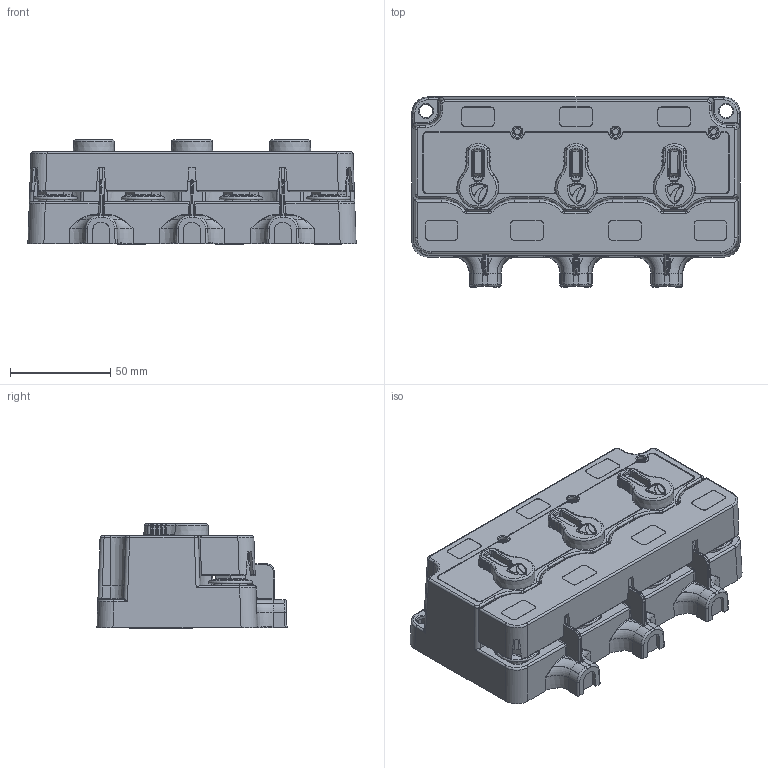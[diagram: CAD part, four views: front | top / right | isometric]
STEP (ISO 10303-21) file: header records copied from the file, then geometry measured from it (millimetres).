
FILE_DESCRIPTION(/* description */ ('STEP AP242','CAx-IF Rec.Pracs.---Representation and Presentation of Product Manufacturing Information (PMI)---4.0---2014-10-13','CAx-IF Rec.Pracs.---3D Tessellated Geometry---0.4---2014-09-14','2;1'),/* implementation_level */ '2;1');
FILE_NAME(/* name */ '61973323760b5b716f8d54d7',/* time_stamp */ '2021-11-19T05:16:25+00:00',/* author */ (''),/* organization */ (''),/* preprocessor_version */ 'ST-DEVELOPER v18.1',/* originating_system */ ' ',/* authorisation */ ' ');
FILE_SCHEMA (('AP242_MANAGED_MODEL_BASED_3D_ENGINEERING_MIM_LF { 1 0 10303 442 1 1 4 }'));
Products named in the file (6): 3X XD Base - Knob-Knob-Knob; M10 Flange Nut; 3X Term Cvr
Bounding box: 164 x 94.99 x 52.05 mm (x, y, z)
Volume: 552209.9 mm3; surface area: 95238.9 mm2
Topology: 6 solids, 20 shells, 3584 faces, 9505 edges, 5980 vertices
Faces by surface type: plane 1361, cone 722, bspline 665, cylinder 623, torus 163, sphere 50
Full cylindrical faces by diameter (mm): 3 x3, 8.376 x4, 10 x4
Entity records: 116273 total; most frequent: CARTESIAN_POINT 31764, ORIENTED_EDGE 18724, DIRECTION 16346, EDGE_CURVE 9362, AXIS2_PLACEMENT_3D 6115, VERTEX_POINT 5956, LINE 4116, VECTOR 4116
